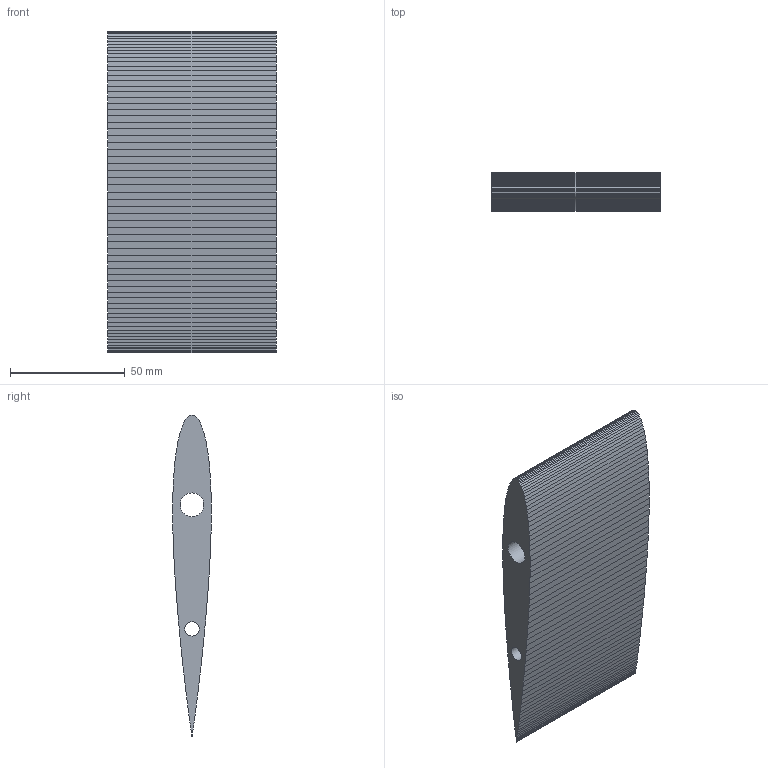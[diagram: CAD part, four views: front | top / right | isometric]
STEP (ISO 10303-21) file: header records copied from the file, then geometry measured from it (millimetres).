
FILE_DESCRIPTION(('Open CASCADE Model'),'2;1');
FILE_NAME('Open CASCADE Shape Model','2026-09-11T00:16:41',('Author'),( 'Open CASCADE'),'Open CASCADE STEP processor 7.9','Open CASCADE 7.9' ,'Unknown');
FILE_SCHEMA(('AUTOMOTIVE_DESIGN { 1 0 10303 214 1 1 1 1 }'));
Length unit declared in the file: millimetre
Products named in the file (1): Open CASCADE STEP translator 7.9 16
Bounding box: 73.3 x 16.8 x 140 mm (x, y, z)
Volume: 20648.4 mm3; surface area: 57267.5 mm2
Topology: 1 solids, 4 shells, 582 faces, 1722 edges, 1148 vertices
Faces by surface type: plane 574, cylinder 8
Full cylindrical faces by diameter (mm): 6.3 x1, 7.5 x3, 10.3 x1, 11.5 x3
Entity records: 39800 total; most frequent: CARTESIAN_POINT 8669, DIRECTION 4636, ORIENTED_EDGE 3444, PCURVE 3444, DEFINITIONAL_REPRESENTATION 3444, LINE 3434, VECTOR 3434, EDGE_CURVE 1722
